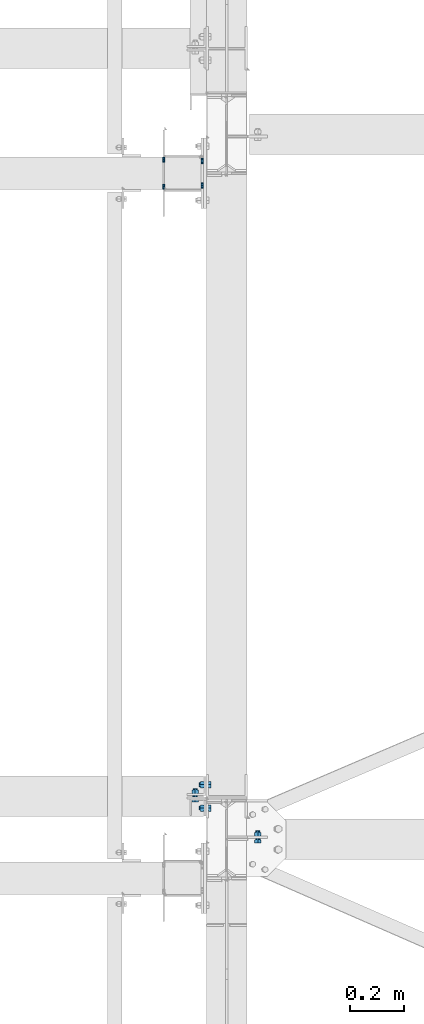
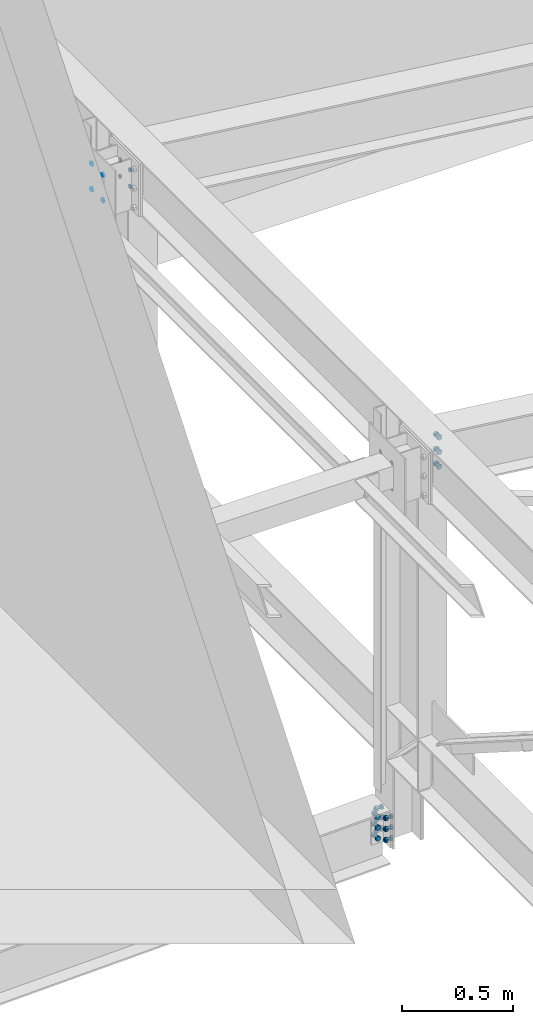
# One storey, part 205 of 3134: 6 mechanical fasteners, 4 elements without a shape of their own.
"""IFC2X3 building model written with IfcOpenShell, lengths in millimetres."""

from ifc_helpers import new_model, si_unit, frame, origin_with_axes, place, context, subcontext, project, spatial, faceted_brep, source, transform, mapped, material, type_object, element, aggregate, save


model = new_model("IFC2X3")

# Units and contexts
model_context = context("Model", 3, precision=1e-05, world=origin_with_axes())
body_context = subcontext(model_context, "Body", "Model", "MODEL_VIEW")
ifc_project = project(units=[si_unit("LENGTHUNIT", "METRE", prefix="MILLI"), si_unit("AREAUNIT", "SQUARE_METRE"), si_unit("VOLUMEUNIT", "CUBIC_METRE"), si_unit("MASSUNIT", "GRAM", prefix="KILO"), si_unit("TIMEUNIT", "SECOND"), si_unit("PLANEANGLEUNIT", "RADIAN"), si_unit("SOLIDANGLEUNIT", "STERADIAN"), si_unit("THERMODYNAMICTEMPERATUREUNIT", "DEGREE_CELSIUS"), si_unit("LUMINOUSINTENSITYUNIT", "LUMEN")], contexts=[model_context])

# Site, building, storey
site_placement = place(None, origin_with_axes())
site = spatial("IfcSite", under=ifc_project, at=site_placement, CompositionType="ELEMENT")
building_placement = place(site_placement, origin_with_axes())
building = spatial("IfcBuilding", under=site, at=building_placement, Name="Undefined", CompositionType="ELEMENT")
storey_placement = place(building_placement, origin_with_axes())
storey = spatial("IfcBuildingStorey", under=building, at=storey_placement, Name="Undefined", CompositionType="ELEMENT", Elevation=0.0)

# Assembly, mechanical fasteners
assembly_1_placement = place(storey_placement, origin_with_axes())
assembly_1 = element("IfcElementAssembly", 1, at=assembly_1_placement, inside=storey, AssemblyPlace="NOTDEFINED", PredefinedType="RIGID_FRAME")
ifc_material = material(Name="8.8")
mechanical_fastener_type = type_object("IfcMechanicalFastenerType", Name="Bolt assembly")
shared_shape_1 = source(origin_with_axes(), body_context, "Body", "Brep", [
    faceted_brep([(9.0, -3.46568413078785e-07, 0.0), (7.79422863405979, -3.46568413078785e-07, 4.50000000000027), (4.49999999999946, -3.46568413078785e-07, 7.79422863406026), (-9.3270238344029e-13, -3.46568413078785e-07, 9.0), (-4.50000000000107, -3.46568413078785e-07, 7.79422863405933), (-7.79422863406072, -3.46568413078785e-07, 4.49999999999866), (-9.0, -3.46568413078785e-07, -1.86540476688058e-12), (-7.79422863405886, -3.46568413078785e-07, -4.50000000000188), (-4.49999999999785, -3.46568413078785e-07, -7.79422863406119), (2.78811514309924e-12, -3.46568413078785e-07, -9.0), (4.50000000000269, -3.46568413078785e-07, -7.7942286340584), (7.79422863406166, -3.46568413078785e-07, -4.49999999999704), (7.79422863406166, 6.1, -4.49999999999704), (4.50000000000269, 6.1, -7.7942286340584), (2.78811514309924e-12, 6.1, -9.0), (-4.49999999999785, 6.1, -7.79422863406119), (-7.79422863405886, 6.1, -4.50000000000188), (-9.0, 6.1, -1.86540476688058e-12), (-7.79422863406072, 6.1, 4.49999999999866), (-4.50000000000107, 6.1, 7.79422863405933), (-9.3270238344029e-13, 6.1, 9.0), (4.49999999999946, 6.1, 7.79422863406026), (7.79422863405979, 6.1, 4.50000000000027), (9.0, 6.1, 0.0)], [[[0, 1, 2, 3, 4, 5, 6, 7, 8, 9, 10, 11]], [[12, 13, 14, 15, 16, 17, 18, 19, 20, 21, 22, 23]], [[0, 23, 22, 1]], [[1, 22, 21, 2]], [[2, 21, 20, 3]], [[3, 20, 19, 4]], [[4, 19, 18, 5]], [[5, 18, 17, 6]], [[6, 17, 16, 7]], [[7, 16, 15, 8]], [[8, 15, 14, 9]], [[9, 14, 13, 10]], [[10, 13, 12, 11]], [[11, 12, 23, 0]]]),
])
mechanical_fastener_1_placement = place(assembly_1_placement, frame((20615.0, 45356.5019072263, 5760.0), z_axis=(0.0, 0.0, 1.0), x_axis=(0.0, -1.0, 0.0)))
mechanical_fastener_1 = element("IfcMechanicalFastener", 2, at=mechanical_fastener_1_placement, type_object=mechanical_fastener_type, material=ifc_material, Name="Bolt assembly", NominalDiameter=16.0, NominalLength=6.0, context=body_context, shape_type="MappedRepresentation", body=[
    mapped(shared_shape_1, transform((0.0, 0.0, -70.0))),
    mapped(shared_shape_1, transform((100.0, 0.0, -70.0))),
    mapped(shared_shape_1, transform((0.0, 0.0, 70.0))),
    mapped(shared_shape_1, transform((100.0, 0.0, 70.0))),
])
shared_shape_2 = source(origin_with_axes(), body_context, "Body", "Brep", [
    faceted_brep([(11.0, 0.0, 0.0), (9.52627944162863, 0.0, 5.50000000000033), (5.49999999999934, 0.0, 9.5262794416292), (-1.13996957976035e-12, 0.0, 11.0), (-5.50000000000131, 0.0, 9.52627944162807), (-9.52627944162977, 0.0, 5.49999999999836), (-11.0, 0.0, -2.27993915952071e-12), (-9.5262794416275, 0.0, -5.5000000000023), (-5.49999999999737, 0.0, -9.52627944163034), (3.40769628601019e-12, 0.0, -11.0), (5.50000000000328, 0.0, -9.52627944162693), (9.52627944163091, 0.0, -5.49999999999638), (9.52627944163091, 10.1, -5.49999999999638), (5.50000000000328, 10.1, -9.52627944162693), (3.40769628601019e-12, 10.1, -11.0), (-5.49999999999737, 10.1, -9.52627944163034), (-9.5262794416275, 10.1, -5.5000000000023), (-11.0, 10.1, -2.27993915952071e-12), (-9.52627944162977, 10.1, 5.49999999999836), (-5.50000000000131, 10.1, 9.52627944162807), (-1.13996957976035e-12, 10.1, 11.0), (5.49999999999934, 10.1, 9.5262794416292), (9.52627944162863, 10.1, 5.50000000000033), (11.0, 10.1, 0.0)], [[[0, 1, 2, 3, 4, 5, 6, 7, 8, 9, 10, 11]], [[12, 13, 14, 15, 16, 17, 18, 19, 20, 21, 22, 23]], [[0, 23, 22, 1]], [[1, 22, 21, 2]], [[2, 21, 20, 3]], [[3, 20, 19, 4]], [[4, 19, 18, 5]], [[5, 18, 17, 6]], [[6, 17, 16, 7]], [[7, 16, 15, 8]], [[8, 15, 14, 9]], [[9, 14, 13, 10]], [[10, 13, 12, 11]], [[11, 12, 23, 0]]]),
])
mechanical_fastener_2_placement = place(assembly_1_placement, frame((20755.0, 45351.5019072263, 5760.0), z_axis=(0.0, 0.0, 1.0), x_axis=(0.0, -1.0, 0.0)))
mechanical_fastener_2 = element("IfcMechanicalFastener", 3, at=mechanical_fastener_2_placement, type_object=mechanical_fastener_type, material=ifc_material, Name="Bolt assembly", NominalDiameter=20.0, NominalLength=10.0, context=body_context, shape_type="MappedRepresentation", body=[
    mapped(shared_shape_2, transform((0.0, 0.0, -45.0))),
    mapped(shared_shape_2, transform((90.0, 0.0, -45.0))),
    mapped(shared_shape_2, transform((0.0, 0.0, 45.0))),
    mapped(shared_shape_2, transform((90.0, 0.0, 45.0))),
])
aggregate(assembly_1, [mechanical_fastener_1, mechanical_fastener_2])

# Assembly, mechanical fastener
assembly_2_placement = place(storey_placement, origin_with_axes())
assembly_2 = element("IfcElementAssembly", 4, at=assembly_2_placement, inside=storey, Name="300", AssemblyPlace="NOTDEFINED", PredefinedType="RIGID_FRAME")
shared_shape_3 = source(origin_with_axes(), body_context, "Body", "Brep", [
    faceted_brep([(13.856406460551, -13.0499999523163, 0.0), (6.92820323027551, -13.0499999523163, 12.0), (-6.92820323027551, -13.0499999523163, 12.0), (-13.856406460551, -13.0499999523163, 1.69692038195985e-15), (-6.92820323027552, -13.0499999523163, -12.0), (6.9282032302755, -13.0499999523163, -12.0), (6.9282032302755, -3.04999995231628, -12.0), (-6.92820323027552, -3.04999995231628, -12.0), (-13.856406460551, -3.04999995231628, 1.69692038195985e-15), (-6.92820323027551, -3.04999995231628, 12.0), (6.92820323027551, -3.04999995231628, 12.0), (13.856406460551, -3.04999995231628, 0.0), (8.0, -3.04999995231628, 0.0), (6.92820323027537, -3.04999995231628, 4.00000000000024), (3.99999999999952, -3.04999995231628, 6.92820323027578), (-8.29068785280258e-13, -3.04999995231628, 8.0), (-4.00000000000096, -3.04999995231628, 6.92820323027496), (-6.9282032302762, -3.04999995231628, 3.99999999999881), (-8.0, -3.04999995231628, -1.65813757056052e-12), (-6.92820323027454, -3.04999995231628, -4.00000000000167), (-3.99999999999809, -3.04999995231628, -6.92820323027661), (2.47832457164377e-12, -3.04999995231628, -8.0), (4.00000000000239, -3.04999995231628, -6.92820323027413), (6.92820323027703, -3.04999995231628, -3.99999999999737), (6.92820323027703, 31.9500000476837, -3.99999999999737), (4.00000000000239, 31.9500000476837, -6.92820323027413), (2.47832457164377e-12, 31.9500000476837, -8.0), (-3.99999999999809, 31.9500000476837, -6.92820323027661), (-6.92820323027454, 31.9500000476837, -4.00000000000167), (-8.0, 31.9500000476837, -1.65813757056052e-12), (-6.9282032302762, 31.9500000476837, 3.99999999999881), (-4.00000000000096, 31.9500000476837, 6.92820323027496), (-8.29068785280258e-13, 31.9500000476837, 8.0), (3.99999999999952, 31.9500000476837, 6.92820323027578), (6.92820323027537, 31.9500000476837, 4.00000000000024), (8.0, 31.9500000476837, 0.0), (13.856406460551, 13.0500000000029, 0.0), (6.92820323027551, 13.0500000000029, 12.0), (-6.92820323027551, 13.0500000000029, 12.0), (-13.856406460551, 13.0500000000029, 1.69692038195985e-15), (-6.92820323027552, 13.0500000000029, -12.0), (6.9282032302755, 13.0500000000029, -12.0), (6.9282032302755, 26.0500000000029, -12.0), (-6.92820323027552, 26.0500000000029, -12.0), (-13.856406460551, 26.0500000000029, 1.69692038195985e-15), (-6.92820323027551, 26.0500000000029, 12.0), (6.92820323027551, 26.0500000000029, 12.0), (13.856406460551, 26.0500000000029, 0.0)], [[[0, 1, 2, 3, 4, 5]], [[6, 7, 8, 9, 10, 11]], [[0, 11, 10, 1]], [[1, 10, 9, 2]], [[2, 9, 8, 3]], [[3, 8, 7, 4]], [[4, 7, 6, 5]], [[5, 6, 11, 0]], [[12, 13, 14, 15, 16, 17, 18, 19, 20, 21, 22, 23]], [[24, 25, 26, 27, 28, 29, 30, 31, 32, 33, 34, 35]], [[12, 35, 34, 13]], [[13, 34, 33, 14]], [[14, 33, 32, 15]], [[15, 32, 31, 16]], [[16, 31, 30, 17]], [[17, 30, 29, 18]], [[18, 29, 28, 19]], [[19, 28, 27, 20]], [[20, 27, 26, 21]], [[21, 26, 25, 22]], [[22, 25, 24, 23]], [[23, 24, 35, 12]], [[36, 37, 38, 39, 40, 41]], [[42, 43, 44, 45, 46, 47]], [[36, 47, 46, 37]], [[37, 46, 45, 38]], [[38, 45, 44, 39]], [[39, 44, 43, 40]], [[40, 43, 42, 41]], [[41, 42, 47, 36]]]),
    faceted_brep([(9.0, 2.95000000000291, 0.0), (7.79422863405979, 2.95000000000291, 4.50000000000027), (4.49999999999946, 2.95000000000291, 7.79422863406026), (-9.3270238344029e-13, 2.95000000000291, 9.0), (-4.50000000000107, 2.95000000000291, 7.79422863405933), (-7.79422863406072, 2.95000000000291, 4.49999999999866), (-9.0, 2.95000000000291, -1.86540476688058e-12), (-7.79422863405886, 2.95000000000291, -4.50000000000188), (-4.49999999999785, 2.95000000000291, -7.79422863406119), (2.78811514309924e-12, 2.95000000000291, -9.0), (4.50000000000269, 2.95000000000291, -7.7942286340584), (7.79422863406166, 2.95000000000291, -4.49999999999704), (7.79422863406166, 13.0500000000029, -4.49999999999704), (4.50000000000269, 13.0500000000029, -7.7942286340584), (2.78811514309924e-12, 13.0500000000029, -9.0), (-4.49999999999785, 13.0500000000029, -7.79422863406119), (-7.79422863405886, 13.0500000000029, -4.50000000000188), (-9.0, 13.0500000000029, -1.86540476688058e-12), (-7.79422863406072, 13.0500000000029, 4.49999999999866), (-4.50000000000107, 13.0500000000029, 7.79422863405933), (-9.3270238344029e-13, 13.0500000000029, 9.0), (4.49999999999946, 13.0500000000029, 7.79422863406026), (7.79422863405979, 13.0500000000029, 4.50000000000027), (9.0, 13.0500000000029, 0.0), (9.0, -2.94999995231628, 0.0), (7.79422863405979, -2.94999995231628, 4.50000000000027), (4.49999999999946, -2.94999995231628, 7.79422863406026), (-9.3270238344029e-13, -2.94999995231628, 9.0), (-4.50000000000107, -2.94999995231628, 7.79422863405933), (-7.79422863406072, -2.94999995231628, 4.49999999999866), (-9.0, -2.94999995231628, -1.86540476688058e-12), (-7.79422863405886, -2.94999995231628, -4.50000000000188), (-4.49999999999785, -2.94999995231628, -7.79422863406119), (2.78811514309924e-12, -2.94999995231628, -9.0), (4.50000000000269, -2.94999995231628, -7.7942286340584), (7.79422863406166, -2.94999995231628, -4.49999999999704), (7.79422863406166, 3.14999995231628, -4.49999999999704), (4.50000000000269, 3.14999995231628, -7.7942286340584), (2.78811514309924e-12, 3.14999995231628, -9.0), (-4.49999999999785, 3.14999995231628, -7.79422863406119), (-7.79422863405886, 3.14999995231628, -4.50000000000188), (-9.0, 3.14999995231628, -1.86540476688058e-12), (-7.79422863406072, 3.14999995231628, 4.49999999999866), (-4.50000000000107, 3.14999995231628, 7.79422863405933), (-9.3270238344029e-13, 3.14999995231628, 9.0), (4.49999999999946, 3.14999995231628, 7.79422863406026), (7.79422863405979, 3.14999995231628, 4.50000000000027), (9.0, 3.14999995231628, 0.0)], [[[0, 1, 2, 3, 4, 5, 6, 7, 8, 9, 10, 11]], [[12, 13, 14, 15, 16, 17, 18, 19, 20, 21, 22, 23]], [[0, 23, 22, 1]], [[1, 22, 21, 2]], [[2, 21, 20, 3]], [[3, 20, 19, 4]], [[4, 19, 18, 5]], [[5, 18, 17, 6]], [[6, 17, 16, 7]], [[7, 16, 15, 8]], [[8, 15, 14, 9]], [[9, 14, 13, 10]], [[10, 13, 12, 11]], [[11, 12, 23, 0]], [[24, 25, 26, 27, 28, 29, 30, 31, 32, 33, 34, 35]], [[36, 37, 38, 39, 40, 41, 42, 43, 44, 45, 46, 47]], [[24, 47, 46, 25]], [[25, 46, 45, 26]], [[26, 45, 44, 27]], [[27, 44, 43, 28]], [[28, 43, 42, 29]], [[29, 42, 41, 30]], [[30, 41, 40, 31]], [[31, 40, 39, 32]], [[32, 39, 38, 33]], [[33, 38, 37, 34]], [[34, 37, 36, 35]], [[35, 36, 47, 24]]]),
])
mechanical_fastener_3_placement = place(assembly_2_placement, frame((20965.0000000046, 42850.0, 5735.35014950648), z_axis=(1.0, 0.0, 0.0), x_axis=(0.0, 0.0, -1.0)))
mechanical_fastener_3 = element("IfcMechanicalFastener", 5, at=mechanical_fastener_3_placement, type_object=mechanical_fastener_type, material=ifc_material, Name="Bolt assembly", NominalDiameter=16.0, NominalLength=35.0, context=body_context, shape_type="MappedRepresentation", body=[
    mapped(shared_shape_3, transform((0.0, 0.0, 0.0))),
    mapped(shared_shape_3, transform((80.0, 0.0, 0.0))),
    mapped(shared_shape_3, transform((160.0, 0.0, 0.0))),
])
aggregate(assembly_2, [mechanical_fastener_3])

assembly_3_placement = place(storey_placement, origin_with_axes())
assembly_3 = element("IfcElementAssembly", 6, at=assembly_3_placement, inside=storey, AssemblyPlace="NOTDEFINED", PredefinedType="RIGID_FRAME")
shared_shape_4 = source(origin_with_axes(), body_context, "Body", "Brep", [
    faceted_brep([(13.856406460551, -20.0400000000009, 0.0), (6.92820323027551, -20.0400000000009, 12.0), (-6.92820323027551, -20.0400000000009, 12.0), (-13.856406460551, -20.0400000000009, 1.69692038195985e-15), (-6.92820323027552, -20.0400000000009, -12.0), (6.9282032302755, -20.0400000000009, -12.0), (6.9282032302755, -10.0400000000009, -12.0), (-6.92820323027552, -10.0400000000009, -12.0), (-13.856406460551, -10.0400000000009, 1.69692038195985e-15), (-6.92820323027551, -10.0400000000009, 12.0), (6.92820323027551, -10.0400000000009, 12.0), (13.856406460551, -10.0400000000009, 0.0), (8.0, -10.0400000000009, 0.0), (6.92820323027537, -10.0400000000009, 4.00000000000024), (3.99999999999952, -10.0400000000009, 6.92820323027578), (-8.29068785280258e-13, -10.0400000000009, 8.0), (-4.00000000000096, -10.0400000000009, 6.92820323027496), (-6.9282032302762, -10.0400000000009, 3.99999999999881), (-8.0, -10.0400000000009, -1.65813757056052e-12), (-6.92820323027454, -10.0400000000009, -4.00000000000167), (-3.99999999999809, -10.0400000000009, -6.92820323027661), (2.47832457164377e-12, -10.0400000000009, -8.0), (4.00000000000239, -10.0400000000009, -6.92820323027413), (6.92820323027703, -10.0400000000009, -3.99999999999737), (6.92820323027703, 29.9599999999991, -3.99999999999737), (4.00000000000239, 29.9599999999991, -6.92820323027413), (2.47832457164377e-12, 29.9599999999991, -8.0), (-3.99999999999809, 29.9599999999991, -6.92820323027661), (-6.92820323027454, 29.9599999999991, -4.00000000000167), (-8.0, 29.9599999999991, -1.65813757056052e-12), (-6.9282032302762, 29.9599999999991, 3.99999999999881), (-4.00000000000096, 29.9599999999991, 6.92820323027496), (-8.29068785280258e-13, 29.9599999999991, 8.0), (3.99999999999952, 29.9599999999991, 6.92820323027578), (6.92820323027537, 29.9599999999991, 4.00000000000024), (8.0, 29.9599999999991, 0.0), (13.856406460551, 10.0400000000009, 0.0), (6.92820323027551, 10.0400000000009, 12.0), (-6.92820323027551, 10.0400000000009, 12.0), (-13.856406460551, 10.0400000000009, 1.69692038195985e-15), (-6.92820323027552, 10.0400000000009, -12.0), (6.9282032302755, 10.0400000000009, -12.0), (6.9282032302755, 23.0400000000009, -12.0), (-6.92820323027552, 23.0400000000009, -12.0), (-13.856406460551, 23.0400000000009, 1.69692038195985e-15), (-6.92820323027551, 23.0400000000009, 12.0), (6.92820323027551, 23.0400000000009, 12.0), (13.856406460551, 23.0400000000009, 0.0)], [[[0, 1, 2, 3, 4, 5]], [[6, 7, 8, 9, 10, 11]], [[0, 11, 10, 1]], [[1, 10, 9, 2]], [[2, 9, 8, 3]], [[3, 8, 7, 4]], [[4, 7, 6, 5]], [[5, 6, 11, 0]], [[12, 13, 14, 15, 16, 17, 18, 19, 20, 21, 22, 23]], [[24, 25, 26, 27, 28, 29, 30, 31, 32, 33, 34, 35]], [[12, 35, 34, 13]], [[13, 34, 33, 14]], [[14, 33, 32, 15]], [[15, 32, 31, 16]], [[16, 31, 30, 17]], [[17, 30, 29, 18]], [[18, 29, 28, 19]], [[19, 28, 27, 20]], [[20, 27, 26, 21]], [[21, 26, 25, 22]], [[22, 25, 24, 23]], [[23, 24, 35, 12]], [[36, 37, 38, 39, 40, 41]], [[42, 43, 44, 45, 46, 47]], [[36, 47, 46, 37]], [[37, 46, 45, 38]], [[38, 45, 44, 39]], [[39, 44, 43, 40]], [[40, 43, 42, 41]], [[41, 42, 47, 36]]]),
    faceted_brep([(9.0, -3.04999995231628, 0.0), (7.79422863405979, -3.04999995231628, 4.50000000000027), (4.49999999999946, -3.04999995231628, 7.79422863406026), (-9.3270238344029e-13, -3.04999995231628, 9.0), (-4.50000000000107, -3.04999995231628, 7.79422863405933), (-7.79422863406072, -3.04999995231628, 4.49999999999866), (-9.0, -3.04999995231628, -1.86540476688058e-12), (-7.79422863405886, -3.04999995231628, -4.50000000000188), (-4.49999999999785, -3.04999995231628, -7.79422863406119), (2.78811514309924e-12, -3.04999995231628, -9.0), (4.50000000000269, -3.04999995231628, -7.7942286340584), (7.79422863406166, -3.04999995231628, -4.49999999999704), (7.79422863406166, 3.04999995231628, -4.49999999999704), (4.50000000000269, 3.04999995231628, -7.7942286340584), (2.78811514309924e-12, 3.04999995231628, -9.0), (-4.49999999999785, 3.04999995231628, -7.79422863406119), (-7.79422863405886, 3.04999995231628, -4.50000000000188), (-9.0, 3.04999995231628, -1.86540476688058e-12), (-7.79422863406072, 3.04999995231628, 4.49999999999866), (-4.50000000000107, 3.04999995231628, 7.79422863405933), (-9.3270238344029e-13, 3.04999995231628, 9.0), (4.49999999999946, 3.04999995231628, 7.79422863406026), (7.79422863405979, 3.04999995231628, 4.50000000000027), (9.0, 3.04999995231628, 0.0), (9.0, -9.94000000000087, 0.0), (7.79422863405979, -9.94000000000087, 4.50000000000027), (4.49999999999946, -9.94000000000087, 7.79422863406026), (-9.3270238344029e-13, -9.94000000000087, 9.0), (-4.50000000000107, -9.94000000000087, 7.79422863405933), (-7.79422863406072, -9.94000000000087, 4.49999999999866), (-9.0, -9.94000000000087, -1.86540476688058e-12), (-7.79422863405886, -9.94000000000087, -4.50000000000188), (-4.49999999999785, -9.94000000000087, -7.79422863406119), (2.78811514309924e-12, -9.94000000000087, -9.0), (4.50000000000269, -9.94000000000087, -7.7942286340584), (7.79422863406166, -9.94000000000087, -4.49999999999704), (7.79422863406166, -2.94000000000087, -4.49999999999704), (4.50000000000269, -2.94000000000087, -7.7942286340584), (2.78811514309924e-12, -2.94000000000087, -9.0), (-4.49999999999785, -2.94000000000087, -7.79422863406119), (-7.79422863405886, -2.94000000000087, -4.50000000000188), (-9.0, -2.94000000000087, -1.86540476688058e-12), (-7.79422863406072, -2.94000000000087, 4.49999999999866), (-4.50000000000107, -2.94000000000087, 7.79422863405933), (-9.3270238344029e-13, -2.94000000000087, 9.0), (4.49999999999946, -2.94000000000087, 7.79422863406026), (7.79422863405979, -2.94000000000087, 4.50000000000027), (9.0, -2.94000000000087, 0.0), (9.0, 2.94000000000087, 0.0), (7.79422863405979, 2.94000000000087, 4.50000000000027), (4.49999999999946, 2.94000000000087, 7.79422863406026), (-9.3270238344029e-13, 2.94000000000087, 9.0), (-4.50000000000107, 2.94000000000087, 7.79422863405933), (-7.79422863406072, 2.94000000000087, 4.49999999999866), (-9.0, 2.94000000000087, -1.86540476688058e-12), (-7.79422863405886, 2.94000000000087, -4.50000000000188), (-4.49999999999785, 2.94000000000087, -7.79422863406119), (2.78811514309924e-12, 2.94000000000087, -9.0), (4.50000000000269, 2.94000000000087, -7.7942286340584), (7.79422863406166, 2.94000000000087, -4.49999999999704), (7.79422863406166, 10.0400000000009, -4.49999999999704), (4.50000000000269, 10.0400000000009, -7.7942286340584), (2.78811514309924e-12, 10.0400000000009, -9.0), (-4.49999999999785, 10.0400000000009, -7.79422863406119), (-7.79422863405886, 10.0400000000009, -4.50000000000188), (-9.0, 10.0400000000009, -1.86540476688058e-12), (-7.79422863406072, 10.0400000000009, 4.49999999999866), (-4.50000000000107, 10.0400000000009, 7.79422863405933), (-9.3270238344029e-13, 10.0400000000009, 9.0), (4.49999999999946, 10.0400000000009, 7.79422863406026), (7.79422863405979, 10.0400000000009, 4.50000000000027), (9.0, 10.0400000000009, 0.0)], [[[0, 1, 2, 3, 4, 5, 6, 7, 8, 9, 10, 11]], [[12, 13, 14, 15, 16, 17, 18, 19, 20, 21, 22, 23]], [[0, 23, 22, 1]], [[1, 22, 21, 2]], [[2, 21, 20, 3]], [[3, 20, 19, 4]], [[4, 19, 18, 5]], [[5, 18, 17, 6]], [[6, 17, 16, 7]], [[7, 16, 15, 8]], [[8, 15, 14, 9]], [[9, 14, 13, 10]], [[10, 13, 12, 11]], [[11, 12, 23, 0]], [[24, 25, 26, 27, 28, 29, 30, 31, 32, 33, 34, 35]], [[36, 37, 38, 39, 40, 41, 42, 43, 44, 45, 46, 47]], [[24, 47, 46, 25]], [[25, 46, 45, 26]], [[26, 45, 44, 27]], [[27, 44, 43, 28]], [[28, 43, 42, 29]], [[29, 42, 41, 30]], [[30, 41, 40, 31]], [[31, 40, 39, 32]], [[32, 39, 38, 33]], [[33, 38, 37, 34]], [[34, 37, 36, 35]], [[35, 36, 47, 24]], [[48, 49, 50, 51, 52, 53, 54, 55, 56, 57, 58, 59]], [[60, 61, 62, 63, 64, 65, 66, 67, 68, 69, 70, 71]], [[48, 71, 70, 49]], [[49, 70, 69, 50]], [[50, 69, 68, 51]], [[51, 68, 67, 52]], [[52, 67, 66, 53]], [[53, 66, 65, 54]], [[54, 65, 64, 55]], [[55, 64, 63, 56]], [[56, 63, 62, 57]], [[57, 62, 61, 58]], [[58, 61, 60, 59]], [[59, 60, 71, 48]]]),
])
mechanical_fastener_4_placement = place(assembly_3_placement, frame((20734.0000000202, 43008.33, 3648.83272487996), z_axis=(1.0, 0.0, 0.0), x_axis=(0.0, 0.0, -1.0)))
mechanical_fastener_4 = element("IfcMechanicalFastener", 7, at=mechanical_fastener_4_placement, type_object=mechanical_fastener_type, material=ifc_material, Name="Bolt assembly", NominalDiameter=16.0, NominalLength=40.0, context=body_context, shape_type="MappedRepresentation", body=[
    mapped(shared_shape_4, transform((0.0, 0.0, 0.0))),
    mapped(shared_shape_4, transform((59.9999999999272, 0.0, 5.40239852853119e-10))),
    mapped(shared_shape_4, transform((120.0, 0.0, 0.0))),
])

assembly_4_placement = place(storey_placement, origin_with_axes())
assembly_4 = element("IfcElementAssembly", 8, at=assembly_4_placement, inside=storey, AssemblyPlace="NOTDEFINED", PredefinedType="RIGID_FRAME")
shared_shape_5 = source(origin_with_axes(), body_context, "Body", "Brep", [
    faceted_brep([(13.856406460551, -19.0, 0.0), (6.92820323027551, -19.0, 12.0), (-6.92820323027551, -19.0, 12.0), (-13.856406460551, -19.0, 1.69692038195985e-15), (-6.92820323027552, -19.0, -12.0), (6.9282032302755, -19.0, -12.0), (6.9282032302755, -9.0, -12.0), (-6.92820323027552, -9.0, -12.0), (-13.856406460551, -9.0, 1.69692038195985e-15), (-6.92820323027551, -9.0, 12.0), (6.92820323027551, -9.0, 12.0), (13.856406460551, -9.0, 0.0), (8.0, -9.0, 0.0), (6.92820323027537, -9.0, 4.00000000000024), (3.99999999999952, -9.0, 6.92820323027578), (-8.29068785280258e-13, -9.0, 8.0), (-4.00000000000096, -9.0, 6.92820323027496), (-6.9282032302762, -9.0, 3.99999999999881), (-8.0, -9.0, -1.65813757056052e-12), (-6.92820323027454, -9.0, -4.00000000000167), (-3.99999999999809, -9.0, -6.92820323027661), (2.47832457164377e-12, -9.0, -8.0), (4.00000000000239, -9.0, -6.92820323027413), (6.92820323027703, -9.0, -3.99999999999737), (6.92820323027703, 26.0, -3.99999999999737), (4.00000000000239, 26.0, -6.92820323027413), (2.47832457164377e-12, 26.0, -8.0), (-3.99999999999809, 26.0, -6.92820323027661), (-6.92820323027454, 26.0, -4.00000000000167), (-8.0, 26.0, -1.65813757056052e-12), (-6.9282032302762, 26.0, 3.99999999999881), (-4.00000000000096, 26.0, 6.92820323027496), (-8.29068785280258e-13, 26.0, 8.0), (3.99999999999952, 26.0, 6.92820323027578), (6.92820323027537, 26.0, 4.00000000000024), (8.0, 26.0, 0.0), (13.856406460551, 7.0, 0.0), (6.92820323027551, 7.0, 12.0), (-6.92820323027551, 7.0, 12.0), (-13.856406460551, 7.0, 1.69692038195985e-15), (-6.92820323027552, 7.0, -12.0), (6.9282032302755, 7.0, -12.0), (6.9282032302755, 20.0, -12.0), (-6.92820323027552, 20.0, -12.0), (-13.856406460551, 20.0, 1.69692038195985e-15), (-6.92820323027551, 20.0, 12.0), (6.92820323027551, 20.0, 12.0), (13.856406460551, 20.0, 0.0)], [[[0, 1, 2, 3, 4, 5]], [[6, 7, 8, 9, 10, 11]], [[0, 11, 10, 1]], [[1, 10, 9, 2]], [[2, 9, 8, 3]], [[3, 8, 7, 4]], [[4, 7, 6, 5]], [[5, 6, 11, 0]], [[12, 13, 14, 15, 16, 17, 18, 19, 20, 21, 22, 23]], [[24, 25, 26, 27, 28, 29, 30, 31, 32, 33, 34, 35]], [[12, 35, 34, 13]], [[13, 34, 33, 14]], [[14, 33, 32, 15]], [[15, 32, 31, 16]], [[16, 31, 30, 17]], [[17, 30, 29, 18]], [[18, 29, 28, 19]], [[19, 28, 27, 20]], [[20, 27, 26, 21]], [[21, 26, 25, 22]], [[22, 25, 24, 23]], [[23, 24, 35, 12]], [[36, 37, 38, 39, 40, 41]], [[42, 43, 44, 45, 46, 47]], [[36, 47, 46, 37]], [[37, 46, 45, 38]], [[38, 45, 44, 39]], [[39, 44, 43, 40]], [[40, 43, 42, 41]], [[41, 42, 47, 36]]]),
    faceted_brep([(9.0, -8.9, 0.0), (7.79422863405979, -8.9, 4.50000000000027), (4.49999999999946, -8.9, 7.79422863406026), (-9.3270238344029e-13, -8.9, 9.0), (-4.50000000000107, -8.9, 7.79422863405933), (-7.79422863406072, -8.9, 4.49999999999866), (-9.0, -8.9, -1.86540476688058e-12), (-7.79422863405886, -8.9, -4.50000000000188), (-4.49999999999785, -8.9, -7.79422863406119), (2.78811514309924e-12, -8.9, -9.0), (4.50000000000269, -8.9, -7.7942286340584), (7.79422863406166, -8.9, -4.49999999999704), (7.79422863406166, 0.100000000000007, -4.49999999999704), (4.50000000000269, 0.100000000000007, -7.7942286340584), (2.78811514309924e-12, 0.100000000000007, -9.0), (-4.49999999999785, 0.100000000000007, -7.79422863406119), (-7.79422863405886, 0.100000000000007, -4.50000000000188), (-9.0, 0.100000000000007, -1.86540476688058e-12), (-7.79422863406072, 0.100000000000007, 4.49999999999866), (-4.50000000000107, 0.100000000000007, 7.79422863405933), (-9.3270238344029e-13, 0.100000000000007, 9.0), (4.49999999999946, 0.100000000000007, 7.79422863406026), (7.79422863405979, 0.100000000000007, 4.50000000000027), (9.0, 0.100000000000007, 0.0), (9.0, -0.1, 0.0), (7.79422863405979, -0.1, 4.50000000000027), (4.49999999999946, -0.1, 7.79422863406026), (-9.3270238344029e-13, -0.1, 9.0), (-4.50000000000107, -0.1, 7.79422863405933), (-7.79422863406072, -0.1, 4.49999999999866), (-9.0, -0.1, -1.86540476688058e-12), (-7.79422863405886, -0.1, -4.50000000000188), (-4.49999999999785, -0.1, -7.79422863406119), (2.78811514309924e-12, -0.1, -9.0), (4.50000000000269, -0.1, -7.7942286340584), (7.79422863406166, -0.1, -4.49999999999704), (7.79422863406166, 7.0, -4.49999999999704), (4.50000000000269, 7.0, -7.7942286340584), (2.78811514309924e-12, 7.0, -9.0), (-4.49999999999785, 7.0, -7.79422863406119), (-7.79422863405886, 7.0, -4.50000000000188), (-9.0, 7.0, -1.86540476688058e-12), (-7.79422863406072, 7.0, 4.49999999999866), (-4.50000000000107, 7.0, 7.79422863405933), (-9.3270238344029e-13, 7.0, 9.0), (4.49999999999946, 7.0, 7.79422863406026), (7.79422863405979, 7.0, 4.50000000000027), (9.0, 7.0, 0.0)], [[[0, 1, 2, 3, 4, 5, 6, 7, 8, 9, 10, 11]], [[12, 13, 14, 15, 16, 17, 18, 19, 20, 21, 22, 23]], [[0, 23, 22, 1]], [[1, 22, 21, 2]], [[2, 21, 20, 3]], [[3, 20, 19, 4]], [[4, 19, 18, 5]], [[5, 18, 17, 6]], [[6, 17, 16, 7]], [[7, 16, 15, 8]], [[8, 15, 14, 9]], [[9, 14, 13, 10]], [[10, 13, 12, 11]], [[11, 12, 23, 0]], [[24, 25, 26, 27, 28, 29, 30, 31, 32, 33, 34, 35]], [[36, 37, 38, 39, 40, 41, 42, 43, 44, 45, 46, 47]], [[24, 47, 46, 25]], [[25, 46, 45, 26]], [[26, 45, 44, 27]], [[27, 44, 43, 28]], [[28, 43, 42, 29]], [[29, 42, 41, 30]], [[30, 41, 40, 31]], [[31, 40, 39, 32]], [[32, 39, 38, 33]], [[33, 38, 37, 34]], [[34, 37, 36, 35]], [[35, 36, 47, 24]]]),
])
mechanical_fastener_5_placement = place(assembly_4_placement, frame((20774.0000000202, 43051.37, 3648.83272487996), z_axis=(0.0, 1.0, 0.0), x_axis=(0.0, 0.0, -1.0)))
mechanical_fastener_5 = element("IfcMechanicalFastener", 9, at=mechanical_fastener_5_placement, type_object=mechanical_fastener_type, material=ifc_material, Name="Bolt assembly", NominalDiameter=16.0, NominalLength=35.0, context=body_context, shape_type="MappedRepresentation", body=[
    mapped(shared_shape_5, transform((0.0, 0.0, 0.0))),
    mapped(shared_shape_5, transform((59.9999999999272, 0.0, 5.40239852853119e-10))),
    mapped(shared_shape_5, transform((120.0, 0.0, 0.0))),
])
aggregate(assembly_4, [mechanical_fastener_5])

# Mechanical fastener
mechanical_fastener_6_placement = place(assembly_3_placement, frame((20774.0000000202, 42965.29, 3648.83272487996), z_axis=(0.0, 1.0, 0.0), x_axis=(0.0, 0.0, -1.0)))
mechanical_fastener_6 = element("IfcMechanicalFastener", 10, at=mechanical_fastener_6_placement, type_object=mechanical_fastener_type, material=ifc_material, Name="Bolt assembly", NominalDiameter=16.0, NominalLength=35.0, context=body_context, shape_type="MappedRepresentation", body=[
    mapped(shared_shape_5, transform((0.0, 0.0, 0.0))),
    mapped(shared_shape_5, transform((59.9999999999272, 0.0, 5.40239852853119e-10))),
    mapped(shared_shape_5, transform((120.0, 0.0, 0.0))),
])

aggregate(assembly_3, [mechanical_fastener_4, mechanical_fastener_6])

save(model, "model.ifc")
